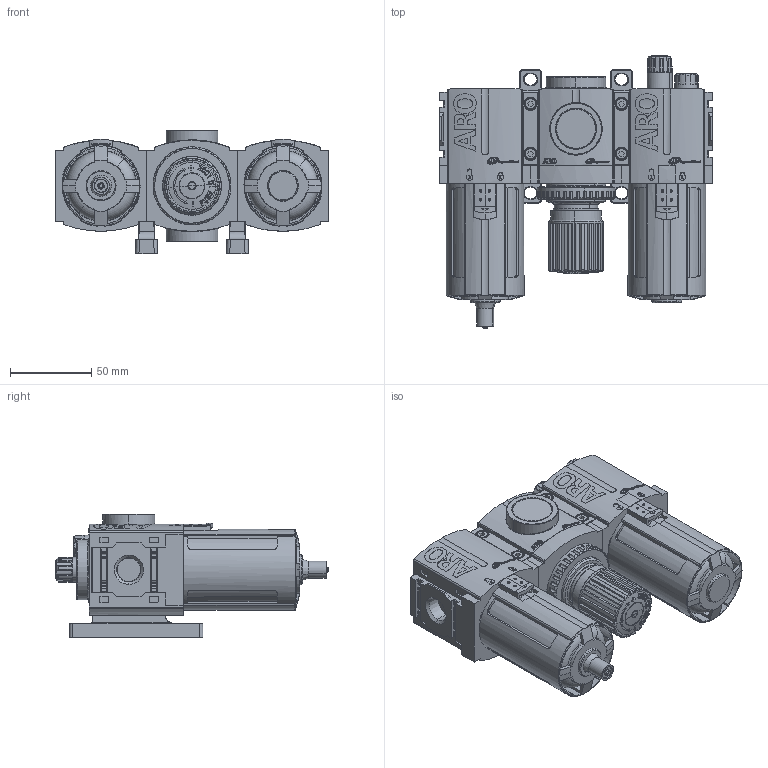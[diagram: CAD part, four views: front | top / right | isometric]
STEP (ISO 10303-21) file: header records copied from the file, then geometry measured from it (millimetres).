
FILE_DESCRIPTION(/* description */ (''),/* implementation_level */ '2;1');
FILE_NAME(/* name */ 'C382X1-80X_01',/* time_stamp */ '2009-02-04T11:48:47-05:00',/* author */ (''),/* organization */ (''),/* preprocessor_version */ 'ST-DEVELOPER v9',/* originating_system */ 'UGS - NX 4.0',/* authorisation */ '');
FILE_SCHEMA (('AUTOMOTIVE_DESIGN { 1 0 10303 214 1 1 1 1 }'));
Products named in the file (1): szee0781jj81
Bounding box: 168 x 167.99 x 76.35 mm (x, y, z)
Volume: 798853.3 mm3; surface area: 157950.3 mm2
Topology: 8 solids, 8 shells, 5053 faces, 13136 edges, 8405 vertices
Faces by surface type: plane 2707, cylinder 1286, bspline 307, extrusion 294, torus 194, cone 184, sphere 73, revolution 8
Full cylindrical faces by diameter (mm): 3.3 x1, 19 x1
Entity records: 225568 total; most frequent: CARTESIAN_POINT 79221, ORIENTED_EDGE 26192, DIRECTION 17601, EDGE_CURVE 13096, VERTEX_POINT 8410, VECTOR 6737, LINE 6443, B_SPLINE_CURVE_WITH_KNOTS 5644
